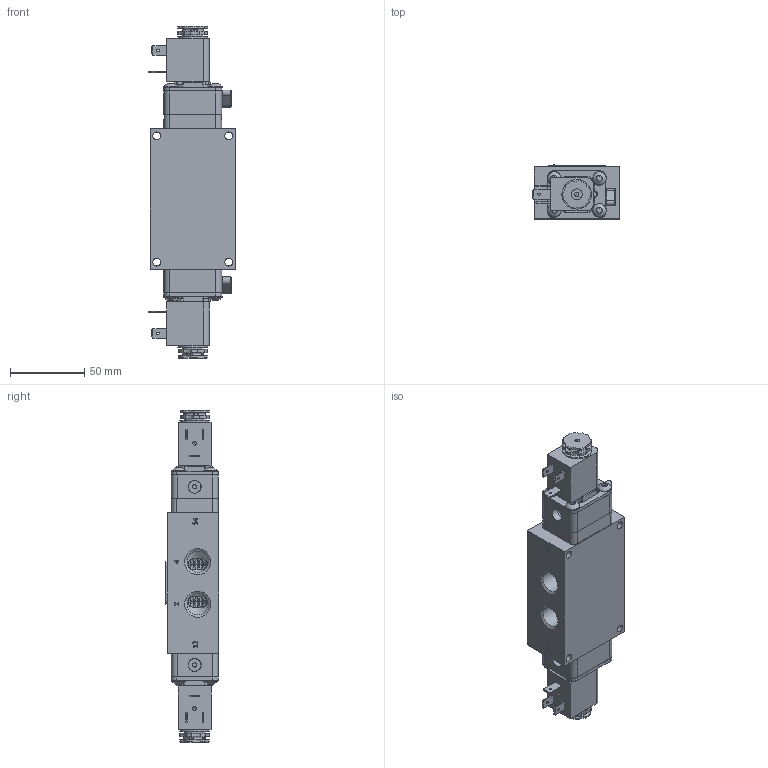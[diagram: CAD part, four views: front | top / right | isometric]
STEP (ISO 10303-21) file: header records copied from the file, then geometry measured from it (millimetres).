
FILE_DESCRIPTION(/* description */ (''),/* implementation_level */ '2;1');
FILE_NAME(/* name */ 'ESY3OCZ.stp',/* time_stamp */ '2026-09-10T08:26:24-04:00',/* author */ ('rmckenna'),/* organization */ (''),/* preprocessor_version */ 'ST-DEVELOPER v20.2',/* originating_system */ 'Autodesk Inventor 2027',/* authorisation */ '');
FILE_SCHEMA (('AUTOMOTIVE_DESIGN { 1 0 10303 214 3 1 1 }'));
Products named in the file (1): Part4
Bounding box: 58.17 x 36.27 x 223.18 mm (x, y, z)
Volume: 236605.8 mm3; surface area: 89413 mm2
Topology: 1 solids, 28 shells, 2324 faces, 5832 edges, 3726 vertices
Faces by surface type: plane 1057, cylinder 660, cone 279, torus 182, bspline 136, sphere 10
Full cylindrical faces by diameter (mm): 1.168 x20, 1.3 x2, 1.397 x2, 1.5 x2, 1.651 x6, 2.032 x8, 2.07 x2, 2.261 x2, 2.35 x8, 2.464 x2, 2.5 x2, 2.778 x2, 2.8 x2, 3 x8, 3.048 x2, 3.4 x2, 3.683 x13, 3.912 x3, 4.191 x4, 4.394 x1, 4.826 x8, 5.15 x8, 5.156 x12, 5.5 x2, 6.65 x2, 7.29 x2, 7.9 x2, 8 x4, 8.433 x2, 8.6 x4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
Entity records: 78498 total; most frequent: CARTESIAN_POINT 20210, ORIENTED_EDGE 11626, DIRECTION 11567, EDGE_CURVE 5813, AXIS2_PLACEMENT_3D 4283, VERTEX_POINT 3724, LINE 3001, VECTOR 3001
